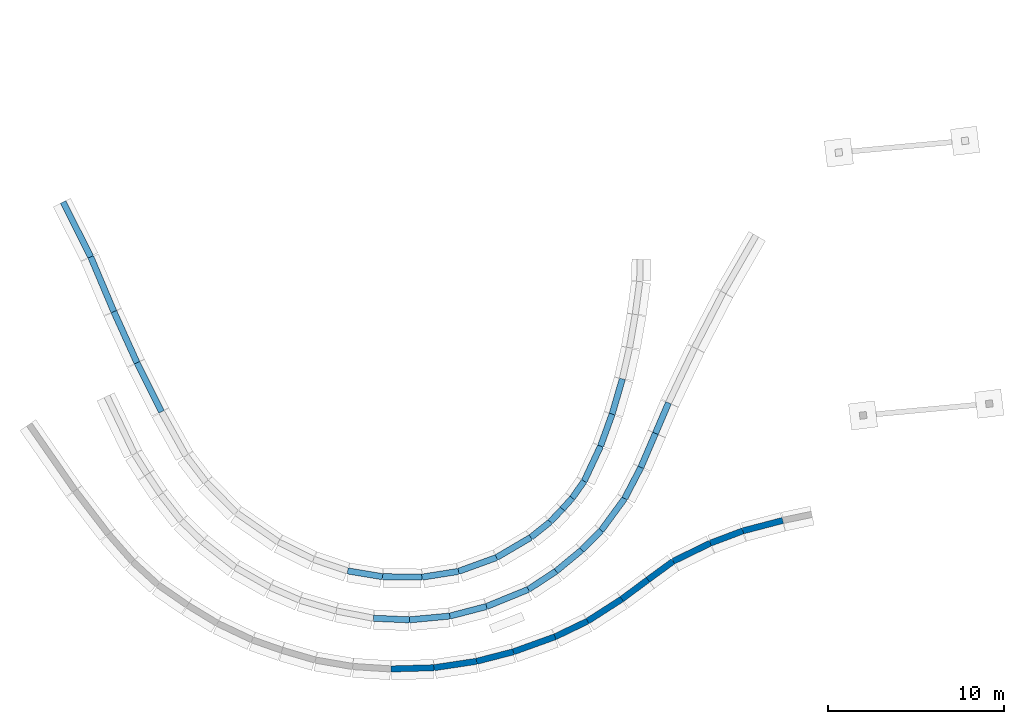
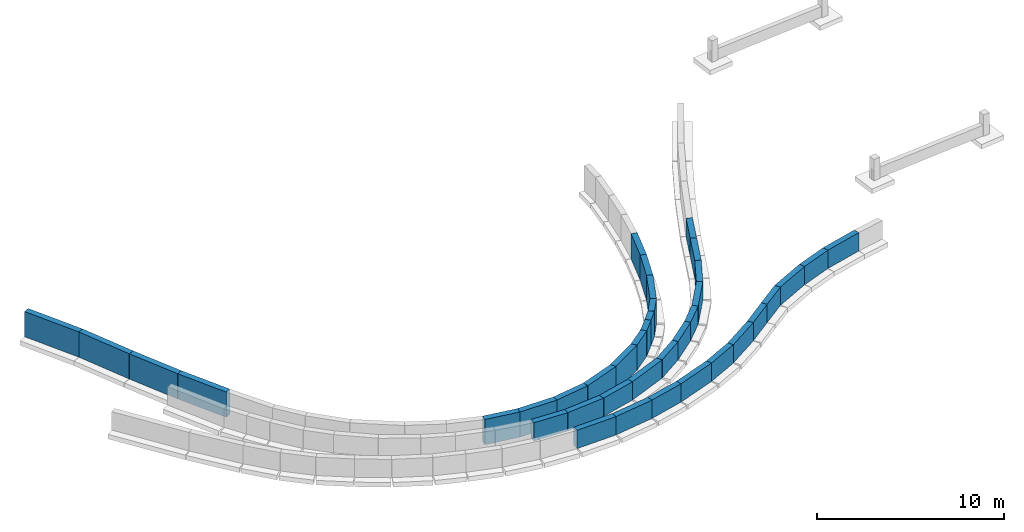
# One storey, part 5 of 6: 38 walls.
"""IFC2X3 building model written with IfcOpenShell, lengths in millimetres."""

from ifc_helpers import new_model, entity, si_unit, converted_unit, direction, origin, origin_with_axes, place, context, project, spatial, faceted_brep, element, save


model = new_model("IFC2X3")

# Units and contexts
model_context = context("Model", 3, precision=1e-05, world=origin(), true_north=direction((0.0, 1.0, 0.0)))
ifc_project = project(units=[si_unit("LENGTHUNIT", "METRE", prefix="MILLI"), si_unit("AREAUNIT", "SQUARE_METRE"), si_unit("VOLUMEUNIT", "CUBIC_METRE"), converted_unit("PLANEANGLEUNIT", "DEGREE", entity("IfcPlaneAngleMeasure", 0.01745), si_unit("PLANEANGLEUNIT", "RADIAN"), dimensions=[0, 0, 0, 0, 0, 0, 0]), si_unit("SOLIDANGLEUNIT", "STERADIAN"), si_unit("MASSUNIT", "GRAM"), si_unit("TIMEUNIT", "SECOND"), si_unit("THERMODYNAMICTEMPERATUREUNIT", "DEGREE_CELSIUS"), si_unit("LUMINOUSINTENSITYUNIT", "LUMEN")], contexts=[model_context])

# Site, building, storey
site_placement = place(None, origin_with_axes())
site = spatial("IfcSite", under=ifc_project, at=site_placement, Name="Default Site", CompositionType="ELEMENT")
building_placement = place(site_placement, origin_with_axes())
building = spatial("IfcBuilding", under=site, at=building_placement, Name="Default Building", CompositionType="ELEMENT")
storey_placement = place(building_placement, origin_with_axes())
storey = spatial("IfcBuildingStorey", under=building, at=storey_placement, Name="Fundação", CompositionType="ELEMENT", Elevation=0.0)

# Walls
wall_1_placement = place(storey_placement, origin_with_axes())
element("IfcWallStandardCase", 1, at=wall_1_placement, inside=storey, Name="IfcWallStandardCase - IfcWallStandardCase - C51 (35)", context=model_context, shape_type="Brep", body=[
    faceted_brep([(18862.11580742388, -2062.058731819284, -900.0000119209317), (19603.11581898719, -326.0587303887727, -900.0000119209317), (19603.11581898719, -326.0587303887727, -2100.000059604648), (18862.11580742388, -2062.058731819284, -2100.000059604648), (19925.01766193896, -463.4603708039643, -900.0000119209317), (19925.01766193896, -463.4603708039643, -2100.000059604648), (19184.01765037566, -2199.460372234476, -900.0000119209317), (19184.01765037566, -2199.460372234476, -2100.000059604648)], [[[0, 1, 2]], [[0, 2, 3]], [[1, 4, 5]], [[1, 5, 2]], [[4, 6, 7]], [[4, 7, 5]], [[6, 0, 3]], [[6, 3, 7]], [[2, 5, 7]], [[2, 7, 3]], [[0, 6, 4]], [[0, 4, 1]]]),
])
wall_2_placement = place(storey_placement, origin_with_axes())
element("IfcWallStandardCase", 2, at=wall_2_placement, inside=storey, Name="IfcWallStandardCase - IfcWallStandardCase - C52 (35)", context=model_context, shape_type="Brep", body=[
    faceted_brep([(18031.30454209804, -3995.618109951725, -900.0000119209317), (18862.30451253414, -2061.618154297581, -900.0000119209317), (18862.30451253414, -2061.618154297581, -2100.000059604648), (18031.30454209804, -3995.618109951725, -2100.000059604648), (19183.87610105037, -2199.790840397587, -900.0000119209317), (19183.87610105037, -2199.790840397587, -2100.000059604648), (18352.87613061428, -4133.790796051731, -900.0000119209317), (18352.87613061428, -4133.790796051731, -2100.000059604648)], [[[0, 1, 2]], [[0, 2, 3]], [[1, 4, 5]], [[1, 5, 2]], [[4, 6, 7]], [[4, 7, 5]], [[6, 0, 3]], [[6, 3, 7]], [[2, 5, 7]], [[2, 7, 3]], [[0, 6, 4]], [[0, 4, 1]]]),
])
wall_3_placement = place(storey_placement, origin_with_axes())
element("IfcWallStandardCase", 3, at=wall_3_placement, inside=storey, Name="IfcWallStandardCase - IfcWallStandardCase - C53 (35)", context=model_context, shape_type="Brep", body=[
    faceted_brep([(17115.66067051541, -5753.21824443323, -900.0000119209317), (18037.66066145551, -3982.21827638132, -900.0000119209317), (18037.66066145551, -3982.21827638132, -2100.000059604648), (17115.66067051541, -5753.21824443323, -2100.000059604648), (18348.10900997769, -4143.840741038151, -900.0000119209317), (18348.10900997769, -4143.840741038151, -2100.000059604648), (17426.1090190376, -5914.84070909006, -900.0000119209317), (17426.1090190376, -5914.84070909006, -2100.000059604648)], [[[0, 1, 2]], [[0, 2, 3]], [[1, 4, 5]], [[1, 5, 2]], [[4, 6, 7]], [[4, 7, 5]], [[6, 0, 3]], [[6, 3, 7]], [[2, 5, 7]], [[2, 7, 3]], [[0, 6, 4]], [[0, 4, 1]]]),
])
wall_4_placement = place(storey_placement, origin_with_axes())
element("IfcWallStandardCase", 4, at=wall_4_placement, inside=storey, Name="IfcWallStandardCase - IfcWallStandardCase - C54 (35)", context=model_context, shape_type="Brep", body=[
    faceted_brep([(15793.73382156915, -7553.362531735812, -900.0000119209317), (17131.73382109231, -5727.362496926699, -900.0000119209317), (17131.73382109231, -5727.362496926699, -2100.000059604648), (15793.73382156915, -7553.362531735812, -2100.000059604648), (17414.05414169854, -5934.232516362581, -900.0000119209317), (17414.05414169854, -5934.232516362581, -2100.000059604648), (16076.05414217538, -7760.232551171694, -900.0000119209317), (16076.05414217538, -7760.232551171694, -2100.000059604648)], [[[0, 1, 2]], [[0, 2, 3]], [[1, 4, 5]], [[1, 5, 2]], [[4, 6, 7]], [[4, 7, 5]], [[6, 0, 3]], [[6, 3, 7]], [[2, 5, 7]], [[2, 7, 3]], [[0, 6, 4]], [[0, 4, 1]]]),
])
wall_5_placement = place(storey_placement, origin_with_axes())
element("IfcWallStandardCase", 5, at=wall_5_placement, inside=storey, Name="IfcWallStandardCase - IfcWallStandardCase - C56 (35)", context=model_context, shape_type="Brep", body=[
    faceted_brep([(13261.58283014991, -9830.464795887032, -900.0000119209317), (14725.58281679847, -8619.464770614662, -900.0000119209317), (14725.58281679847, -8619.464770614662, -2100.000059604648), (13261.58283014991, -9830.464795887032, -2100.000059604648), (14948.66738577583, -8889.155820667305, -900.0000119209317), (14948.66738577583, -8889.155820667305, -2100.000059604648), (13484.66739912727, -10100.15584593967, -900.0000119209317), (13484.66739912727, -10100.15584593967, -2100.000059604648)], [[[0, 1, 2]], [[0, 2, 3]], [[1, 4, 5]], [[1, 5, 2]], [[4, 6, 7]], [[4, 7, 5]], [[6, 0, 3]], [[6, 3, 7]], [[2, 5, 7]], [[2, 7, 3]], [[0, 6, 4]], [[0, 4, 1]]]),
])
wall_6_placement = place(storey_placement, origin_with_axes())
element("IfcWallStandardCase", 6, at=wall_6_placement, inside=storey, Name="IfcWallStandardCase - IfcWallStandardCase - C57 (35)", context=model_context, shape_type="Brep", body=[
    faceted_brep([(11706.42371088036, -10848.30190706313, -900.0000119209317), (13279.423665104, -9817.301918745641, -900.0000119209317), (13279.423665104, -9817.301918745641, -2100.000059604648), (11706.42371088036, -10848.30190706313, -2100.000059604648), (13471.28672510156, -10110.02798843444, -900.0000119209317), (13471.28672510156, -10110.02798843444, -2100.000059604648), (11898.28677087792, -11141.02797675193, -900.0000119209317), (11898.28677087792, -11141.02797675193, -2100.000059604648)], [[[0, 1, 2]], [[0, 2, 3]], [[1, 4, 5]], [[1, 5, 2]], [[4, 6, 7]], [[4, 7, 5]], [[6, 0, 3]], [[6, 3, 7]], [[2, 5, 7]], [[2, 7, 3]], [[0, 6, 4]], [[0, 4, 1]]]),
])
wall_7_placement = place(storey_placement, origin_with_axes())
element("IfcWallStandardCase", 7, at=wall_7_placement, inside=storey, Name="IfcWallStandardCase - IfcWallStandardCase - C58 (35)", context=model_context, shape_type="Brep", body=[
    faceted_brep([(9354.33924728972, -11806.46209662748, -900.0000119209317), (11740.33916527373, -10830.46211546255, -900.0000119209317), (11740.33916527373, -10830.46211546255, -2100.000059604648), (9354.33924728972, -11806.46209662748, -2100.000059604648), (11872.85006577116, -11154.40784638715, -900.0000119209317), (11872.85006577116, -11154.40784638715, -2100.000059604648), (9486.850147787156, -12130.40782755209, -900.0000119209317), (9486.850147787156, -12130.40782755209, -2100.000059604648)], [[[0, 1, 2]], [[0, 2, 3]], [[1, 4, 5]], [[1, 5, 2]], [[4, 6, 7]], [[4, 7, 5]], [[6, 0, 3]], [[6, 3, 7]], [[2, 5, 7]], [[2, 7, 3]], [[0, 6, 4]], [[0, 4, 1]]]),
])
wall_8_placement = place(storey_placement, origin_with_axes())
element("IfcWallStandardCase", 8, at=wall_8_placement, inside=storey, Name="IfcWallStandardCase - IfcWallStandardCase - C60 (35)", context=model_context, shape_type="Brep", body=[
    faceted_brep([(5019.386290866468, -12551.44761238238, -900.0000119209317), (7333.386301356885, -12334.44760475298, -900.0000119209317), (7333.386301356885, -12334.44760475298, -2100.000059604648), (5019.386290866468, -12551.44761238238, -2100.000059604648), (7366.064786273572, -12682.9187098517, -900.0000119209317), (7366.064786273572, -12682.9187098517, -2100.000059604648), (5052.064775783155, -12899.9187174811, -900.0000119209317), (5052.064775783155, -12899.9187174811, -2100.000059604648)], [[[0, 1, 2]], [[0, 2, 3]], [[1, 4, 5]], [[1, 5, 2]], [[4, 6, 7]], [[4, 7, 5]], [[6, 0, 3]], [[6, 3, 7]], [[2, 5, 7]], [[2, 7, 3]], [[0, 6, 4]], [[0, 4, 1]]]),
])
wall_9_placement = place(storey_placement, origin_with_axes())
element("IfcWallStandardCase", 9, at=wall_9_placement, inside=storey, Name="IfcWallStandardCase - IfcWallStandardCase - C59 (35)", context=model_context, shape_type="Brep", body=[
    faceted_brep([(7301.582927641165, -12340.04851871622, -900.0000119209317), (9379.58293670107, -11798.04850810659, -900.0000119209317), (9379.58293670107, -11798.04850810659, -2100.000059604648), (7301.582927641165, -12340.04851871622, -2100.000059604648), (9467.917318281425, -12136.71803170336, -900.0000119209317), (9467.917318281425, -12136.71803170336, -2100.000059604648), (7389.917309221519, -12678.71804231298, -900.0000119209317), (7389.917309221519, -12678.71804231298, -2100.000059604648)], [[[0, 1, 2]], [[0, 2, 3]], [[1, 4, 5]], [[1, 5, 2]], [[4, 6, 7]], [[4, 7, 5]], [[6, 0, 3]], [[6, 3, 7]], [[2, 5, 7]], [[2, 7, 3]], [[0, 6, 4]], [[0, 4, 1]]]),
])
wall_10_placement = place(storey_placement, origin_with_axes())
element("IfcWallStandardCase", 10, at=wall_10_placement, inside=storey, Name="IfcWallStandardCase - IfcWallStandardCase - C61 (35)", context=model_context, shape_type="Brep", body=[
    faceted_brep([(3003.959414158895, -12459.77205563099, -900.0000119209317), (5046.959396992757, -12550.77206123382, -900.0000119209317), (5046.959396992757, -12550.77206123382, -2100.000059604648), (3003.959414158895, -12459.77205563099, -2100.000059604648), (5031.384941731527, -12900.42537975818, -900.0000119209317), (5031.384941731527, -12900.42537975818, -2100.000059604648), (2988.384958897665, -12809.42537415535, -900.0000119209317), (2988.384958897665, -12809.42537415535, -2100.000059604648)], [[[0, 1, 2]], [[0, 2, 3]], [[1, 4, 5]], [[1, 5, 2]], [[4, 6, 7]], [[4, 7, 5]], [[6, 0, 3]], [[6, 3, 7]], [[2, 5, 7]], [[2, 7, 3]], [[0, 6, 4]], [[0, 4, 1]]]),
])
wall_11_placement = place(storey_placement, origin_with_axes())
element("IfcWallStandardCase", 11, at=wall_11_placement, inside=storey, Name="IfcWallStandardCase - IfcWallStandardCase - C55 (35)", context=model_context, shape_type="Brep", body=[
    faceted_brep([(14711.63834119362, -8632.152600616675, -900.0000119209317), (15813.63836908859, -7530.152572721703, -900.0000119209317), (15813.63836908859, -7530.152572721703, -2100.000059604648), (14711.63834119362, -8632.152600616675, -2100.000059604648), (16061.1257650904, -7777.639968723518, -900.0000119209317), (16061.1257650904, -7777.639968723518, -2100.000059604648), (14959.12573719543, -8879.639996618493, -900.0000119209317), (14959.12573719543, -8879.639996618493, -2100.000059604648)], [[[0, 1, 2]], [[0, 2, 3]], [[1, 4, 5]], [[1, 5, 2]], [[4, 6, 7]], [[4, 7, 5]], [[6, 0, 3]], [[6, 3, 7]], [[2, 5, 7]], [[2, 7, 3]], [[0, 6, 4]], [[0, 4, 1]]]),
])
wall_12_placement = place(storey_placement, origin_with_axes())
element("IfcWallStandardCase", 12, at=wall_12_placement, inside=storey, Name="IfcWallStandardCase - IfcWallStandardCase - C12 (35)", context=model_context, shape_type="Brep", body=[
    faceted_brep([(3510.369693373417, -10099.58729582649, -1800.000032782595), (5761.369620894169, -10125.58728891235, -1800.000032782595), (5761.369620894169, -10125.58728891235, -3450.000008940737), (3510.369693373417, -10099.58729582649, -3450.000008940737), (5757.327233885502, -10475.56394773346, -1800.000032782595), (5757.327233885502, -10475.56394773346, -3450.000008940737), (3506.32730636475, -10449.56395464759, -1800.000032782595), (3506.32730636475, -10449.56395464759, -3450.000008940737)], [[[0, 1, 2]], [[0, 2, 3]], [[1, 4, 5]], [[1, 5, 2]], [[4, 6, 7]], [[4, 7, 5]], [[6, 0, 3]], [[6, 3, 7]], [[2, 5, 7]], [[2, 7, 3]], [[0, 6, 4]], [[0, 4, 1]]]),
])
wall_13_placement = place(storey_placement, origin_with_axes())
element("IfcWallStandardCase", 13, at=wall_13_placement, inside=storey, Name="IfcWallStandardCase - IfcWallStandardCase - C13 (35)", context=model_context, shape_type="Brep", body=[
    faceted_brep([(5727.72532962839, -10128.04380702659, -1800.000032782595), (7801.725330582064, -9799.04382108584, -1800.000032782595), (7801.725330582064, -9799.04382108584, -3450.000008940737), (5727.72532962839, -10128.04380702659, -3450.000008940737), (7856.560530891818, -10144.72156475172, -1800.000032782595), (7856.560530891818, -10144.72156475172, -3450.000008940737), (5782.560529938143, -10473.72155069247, -1800.000032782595), (5782.560529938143, -10473.72155069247, -3450.000008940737)], [[[0, 1, 2]], [[0, 2, 3]], [[1, 4, 5]], [[1, 5, 2]], [[4, 6, 7]], [[4, 7, 5]], [[6, 0, 3]], [[6, 3, 7]], [[2, 5, 7]], [[2, 7, 3]], [[0, 6, 4]], [[0, 4, 1]]]),
])
wall_14_placement = place(storey_placement, origin_with_axes())
element("IfcWallStandardCase", 14, at=wall_14_placement, inside=storey, Name="IfcWallStandardCase - IfcWallStandardCase - C20 (35)", context=model_context, shape_type="Brep", body=[
    faceted_brep([(16394.03285777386, -985.6661986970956, -1800.000032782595), (16976.03284513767, 1013.333873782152, -1800.000032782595), (16976.03284513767, 1013.333873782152, -3450.000008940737), (16394.03285777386, -985.6661986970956, -3450.000008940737), (17312.07986867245, 915.4952335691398, -1800.000032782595), (17312.07986867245, 915.4952335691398, -3450.000008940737), (16730.07988130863, -1083.504838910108, -1800.000032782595), (16730.07988130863, -1083.504838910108, -3450.000008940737)], [[[0, 1, 2]], [[0, 2, 3]], [[1, 4, 5]], [[1, 5, 2]], [[4, 6, 7]], [[4, 7, 5]], [[6, 0, 3]], [[6, 3, 7]], [[2, 5, 7]], [[2, 7, 3]], [[0, 6, 4]], [[0, 4, 1]]]),
])
wall_15_placement = place(storey_placement, origin_with_axes())
element("IfcWallStandardCase", 15, at=wall_15_placement, inside=storey, Name="IfcWallStandardCase - IfcWallStandardCase - C14 (35)", context=model_context, shape_type="Brep", body=[
    faceted_brep([(7764.670383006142, -9808.630065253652, -1800.000032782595), (9939.017783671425, -9017.425508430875, -1800.000032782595), (9939.017783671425, -9017.425508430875, -3450.000008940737), (7764.670383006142, -9808.630065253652, -3450.000008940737), (10058.69914200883, -9346.32729106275, -1800.000032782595), (10058.69914200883, -9346.32729106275, -3450.000008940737), (7884.351741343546, -10137.53184788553, -1800.000032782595), (7884.351741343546, -10137.53184788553, -3450.000008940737)], [[[0, 1, 2]], [[0, 2, 3]], [[1, 4, 5]], [[1, 5, 2]], [[4, 6, 7]], [[4, 7, 5]], [[6, 0, 3]], [[6, 3, 7]], [[2, 5, 7]], [[2, 7, 3]], [[0, 6, 4]], [[0, 4, 1]]]),
])
wall_16_placement = place(storey_placement, origin_with_axes())
element("IfcWallStandardCase", 16, at=wall_16_placement, inside=storey, Name="IfcWallStandardCase - IfcWallStandardCase - C19 (35)", context=model_context, shape_type="Brep", body=[
    faceted_brep([(15739.96269309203, -2794.60700293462, -1800.000032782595), (16397.9627003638, -973.6069633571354, -1800.000032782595), (16397.9627003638, -973.6069633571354, -3450.000008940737), (15739.96269309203, -2794.60700293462, -3450.000008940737), (16727.1324952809, -1092.549164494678, -1800.000032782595), (16727.1324952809, -1092.549164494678, -3450.000008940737), (16069.13248800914, -2913.549204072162, -1800.000032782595), (16069.13248800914, -2913.549204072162, -3450.000008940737)], [[[0, 1, 2]], [[0, 2, 3]], [[1, 4, 5]], [[1, 5, 2]], [[4, 6, 7]], [[4, 7, 5]], [[6, 0, 3]], [[6, 3, 7]], [[2, 5, 7]], [[2, 7, 3]], [[0, 6, 4]], [[0, 4, 1]]]),
])
wall_17_placement = place(storey_placement, origin_with_axes())
element("IfcWallStandardCase", 17, at=wall_17_placement, inside=storey, Name="IfcWallStandardCase - IfcWallStandardCase - C4 (35)", context=model_context, shape_type="Brep", body=[
    faceted_brep([(-10277.05483638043, 1956.868746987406, -1800.000032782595), (-8886.054863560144, -825.1311986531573, -1800.000032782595), (-8886.054863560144, -825.1311986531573, -3450.000008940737), (-10277.05483638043, 1956.868746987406, -3450.000008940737), (-9199.104358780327, -981.6559760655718, -1800.000032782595), (-9199.104358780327, -981.6559760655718, -3450.000008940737), (-10590.10433160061, 1800.343969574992, -1800.000032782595), (-10590.10433160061, 1800.343969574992, -3450.000008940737)], [[[0, 1, 2]], [[0, 2, 3]], [[1, 4, 5]], [[1, 5, 2]], [[4, 6, 7]], [[4, 7, 5]], [[6, 0, 3]], [[6, 3, 7]], [[2, 5, 7]], [[2, 7, 3]], [[0, 6, 4]], [[0, 4, 1]]]),
])
wall_18_placement = place(storey_placement, origin_with_axes())
element("IfcWallStandardCase", 18, at=wall_18_placement, inside=storey, Name="IfcWallStandardCase - IfcWallStandardCase - C18 (35)", context=model_context, shape_type="Brep", body=[
    faceted_brep([(14810.93204388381, -4776.763805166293, -1800.000032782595), (15746.93203339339, -2777.763792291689, -1800.000032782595), (15746.93203339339, -2777.763792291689, -3450.000008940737), (14810.93204388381, -4776.763805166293, -3450.000008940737), (16063.90548119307, -2926.181563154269, -1800.000032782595), (16063.90548119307, -2926.181563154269, -3450.000008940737), (15127.90549168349, -4925.181576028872, -1800.000032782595), (15127.90549168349, -4925.181576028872, -3450.000008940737)], [[[0, 1, 2]], [[0, 2, 3]], [[1, 4, 5]], [[1, 5, 2]], [[4, 6, 7]], [[4, 7, 5]], [[6, 0, 3]], [[6, 3, 7]], [[2, 5, 7]], [[2, 7, 3]], [[0, 6, 4]], [[0, 4, 1]]]),
])
wall_19_placement = place(storey_placement, origin_with_axes())
element("IfcWallStandardCase", 19, at=wall_19_placement, inside=storey, Name="IfcWallStandardCase - IfcWallStandardCase - C1 (35)", context=model_context, shape_type="Brep", body=[
    faceted_brep([(-14477.3309803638, 11092.41901726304, -1800.000032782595), (-12908.33097464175, 7978.418935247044, -1800.000032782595), (-12908.33097464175, 7978.418935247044, -3450.000008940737), (-14477.3309803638, 11092.41901726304, -3450.000008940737), (-13220.89725500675, 7820.931304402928, -1800.000032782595), (-13220.89725500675, 7820.931304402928, -3450.000008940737), (-14789.89726072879, 10934.93138641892, -1800.000032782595), (-14789.89726072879, 10934.93138641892, -3450.000008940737)], [[[0, 1, 2]], [[0, 2, 3]], [[1, 4, 5]], [[1, 5, 2]], [[4, 6, 7]], [[4, 7, 5]], [[6, 0, 3]], [[6, 3, 7]], [[2, 5, 7]], [[2, 7, 3]], [[0, 6, 4]], [[0, 4, 1]]]),
])
wall_20_placement = place(storey_placement, origin_with_axes())
element("IfcWallStandardCase", 20, at=wall_20_placement, inside=storey, Name="IfcWallStandardCase - IfcWallStandardCase - C2 (35)", context=model_context, shape_type="Brep", body=[
    faceted_brep([(-12902.71253598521, 7966.272968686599, -1800.000032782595), (-11587.71250856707, 4854.272980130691, -1800.000032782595), (-11587.71250856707, 4854.272980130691, -3450.000008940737), (-12902.71253598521, 7966.272968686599, -3450.000008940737), (-11910.11108172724, 4718.040842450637, -1800.000032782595), (-11910.11108172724, 4718.040842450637, -3450.000008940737), (-13225.11110914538, 7830.040831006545, -1800.000032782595), (-13225.11110914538, 7830.040831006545, -3450.000008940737)], [[[0, 1, 2]], [[0, 2, 3]], [[1, 4, 5]], [[1, 5, 2]], [[4, 6, 7]], [[4, 7, 5]], [[6, 0, 3]], [[6, 3, 7]], [[2, 5, 7]], [[2, 7, 3]], [[0, 6, 4]], [[0, 4, 1]]]),
])
wall_21_placement = place(storey_placement, origin_with_axes())
element("IfcWallStandardCase", 21, at=wall_21_placement, inside=storey, Name="IfcWallStandardCase - IfcWallStandardCase - C15 (35)", context=model_context, shape_type="Brep", body=[
    faceted_brep([(9905.966350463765, -9033.004113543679, -1800.000032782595), (11852.88781824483, -7887.198158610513, -1800.000032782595), (11852.88781824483, -7887.198158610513, -3450.000008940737), (9905.966350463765, -9033.004113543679, -3450.000008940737), (12030.4091662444, -8188.837357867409, -1800.000032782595), (12030.4091662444, -8188.837357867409, -3450.000008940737), (10083.48769846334, -9334.643312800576, -1800.000032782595), (10083.48769846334, -9334.643312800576, -3450.000008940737)], [[[0, 1, 2]], [[0, 2, 3]], [[1, 4, 5]], [[1, 5, 2]], [[4, 6, 7]], [[4, 7, 5]], [[6, 0, 3]], [[6, 3, 7]], [[2, 5, 7]], [[2, 7, 3]], [[0, 6, 4]], [[0, 4, 1]]]),
])
wall_22_placement = place(storey_placement, origin_with_axes())
element("IfcWallStandardCase", 22, at=wall_22_placement, inside=storey, Name="IfcWallStandardCase - IfcWallStandardCase - C11 (35)", context=model_context, shape_type="Brep", body=[
    faceted_brep([(1566.939499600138, -9773.295182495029, -1800.000032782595), (3540.939536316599, -10102.29516936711, -1800.000032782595), (3540.939536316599, -10102.29516936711, -3450.000008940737), (1566.939499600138, -9773.295182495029, -3450.000008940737), (3483.399894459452, -10447.53302982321, -1800.000032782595), (3483.399894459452, -10447.53302982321, -3450.000008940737), (1509.399857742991, -10118.53304295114, -1800.000032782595), (1509.399857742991, -10118.53304295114, -3450.000008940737)], [[[0, 1, 2]], [[0, 2, 3]], [[1, 4, 5]], [[1, 5, 2]], [[4, 6, 7]], [[4, 7, 5]], [[6, 0, 3]], [[6, 3, 7]], [[2, 5, 7]], [[2, 7, 3]], [[0, 6, 4]], [[0, 4, 1]]]),
])
wall_23_placement = place(storey_placement, origin_with_axes())
element("IfcWallStandardCase", 23, at=wall_23_placement, inside=storey, Name="IfcWallStandardCase - IfcWallStandardCase - C3 (35)", context=model_context, shape_type="Brep", body=[
    faceted_brep([(-11589.71926333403, 4858.860798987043, -1800.000032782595), (-10273.71927859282, 1949.860879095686, -1800.000032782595), (-10273.71927859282, 1949.860879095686, -3450.000008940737), (-11589.71926333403, 4858.860798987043, -3450.000008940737), (-10592.6060354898, 1805.599995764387, -1800.000032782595), (-10592.6060354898, 1805.599995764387, -3450.000008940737), (-11908.60602023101, 4714.599915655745, -1800.000032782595), (-11908.60602023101, 4714.599915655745, -3450.000008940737)], [[[0, 1, 2]], [[0, 2, 3]], [[1, 4, 5]], [[1, 5, 2]], [[4, 6, 7]], [[4, 7, 5]], [[6, 0, 3]], [[6, 3, 7]], [[2, 5, 7]], [[2, 7, 3]], [[0, 6, 4]], [[0, 4, 1]]]),
])
wall_24_placement = place(storey_placement, origin_with_axes())
element("IfcWallStandardCase", 24, at=wall_24_placement, inside=storey, Name="IfcWallStandardCase - IfcWallStandardCase - C120 (35)", context=model_context, shape_type="Brep", body=[
    faceted_brep([(13607.49655316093, -6306.674793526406, -1800.000032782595), (14164.49656436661, -5688.67479281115, -1800.000032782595), (14164.49656436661, -5688.67479281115, -3450.000008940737), (13607.49655316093, -6306.674793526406, -3450.000008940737), (14424.48210070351, -5922.998324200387, -1800.000032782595), (14424.48210070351, -5922.998324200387, -3450.000008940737), (13867.48208949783, -6540.998324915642, -1800.000032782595), (13867.48208949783, -6540.998324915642, -3450.000008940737)], [[[0, 1, 2]], [[0, 2, 3]], [[1, 4, 5]], [[1, 5, 2]], [[4, 6, 7]], [[4, 7, 5]], [[6, 0, 3]], [[6, 3, 7]], [[2, 5, 7]], [[2, 7, 3]], [[0, 6, 4]], [[0, 4, 1]]]),
])
wall_25_placement = place(storey_placement, origin_with_axes())
element("IfcWallStandardCase", 25, at=wall_25_placement, inside=storey, Name="IfcWallStandardCase - IfcWallStandardCase - C16 (35)", context=model_context, shape_type="Brep", body=[
    faceted_brep([(11829.50921321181, -7903.294000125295, -1800.000032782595), (12941.24035501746, -7015.30456850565, -1800.000032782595), (12941.24035501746, -7015.30456850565, -3450.000008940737), (11829.50921321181, -7903.294000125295, -3450.000008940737), (13159.67424178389, -7288.77601335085, -1800.000032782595), (13159.67424178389, -7288.77601335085, -3450.000008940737), (12047.94309997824, -8176.765444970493, -1800.000032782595), (12047.94309997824, -8176.765444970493, -3450.000008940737)], [[[0, 1, 2]], [[0, 2, 3]], [[1, 4, 5]], [[1, 5, 2]], [[4, 6, 7]], [[4, 7, 5]], [[6, 0, 3]], [[6, 3, 7]], [[2, 5, 7]], [[2, 7, 3]], [[0, 6, 4]], [[0, 4, 1]]]),
])
wall_26_placement = place(storey_placement, origin_with_axes())
element("IfcWallStandardCase", 26, at=wall_26_placement, inside=storey, Name="IfcWallStandardCase - IfcWallStandardCase - C17 (35)", context=model_context, shape_type="Brep", body=[
    faceted_brep([(12920.61846547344, -7034.290154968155, -1800.000032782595), (13610.61847799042, -6303.290148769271, -1800.000032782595), (13610.61847799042, -6303.290148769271, -3450.000008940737), (12920.61846547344, -7034.290154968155, -3450.000008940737), (13865.14066748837, -6543.536802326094, -1800.000032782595), (13865.14066748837, -6543.536802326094, -3450.000008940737), (13175.14065497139, -7274.536808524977, -1800.000032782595), (13175.14065497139, -7274.536808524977, -3450.000008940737)], [[[0, 1, 2]], [[0, 2, 3]], [[1, 4, 5]], [[1, 5, 2]], [[4, 6, 7]], [[4, 7, 5]], [[6, 0, 3]], [[6, 3, 7]], [[2, 5, 7]], [[2, 7, 3]], [[0, 6, 4]], [[0, 4, 1]]]),
])
wall_27_placement = place(storey_placement, origin_with_axes())
element("IfcWallStandardCase", 27, at=wall_27_placement, inside=storey, Name="IfcWallStandardCase - IfcWallStandardCase - C121 (35)", context=model_context, shape_type="Brep", body=[
    faceted_brep([(14149.71798439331, -5707.163914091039, -1800.000032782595), (14828.71798951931, -4746.163918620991, -1800.000032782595), (14828.71798951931, -4746.163918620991, -3450.000008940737), (14149.71798439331, -5707.163914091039, -3450.000008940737), (15114.56602592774, -4948.13148582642, -1800.000032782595), (15114.56602592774, -4948.13148582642, -3450.000008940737), (14435.56602080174, -5909.131481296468, -1800.000032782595), (14435.56602080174, -5909.131481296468, -3450.000008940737)], [[[0, 1, 2]], [[0, 2, 3]], [[1, 4, 5]], [[1, 5, 2]], [[4, 6, 7]], [[4, 7, 5]], [[6, 0, 3]], [[6, 3, 7]], [[2, 5, 7]], [[2, 7, 3]], [[0, 6, 4]], [[0, 4, 1]]]),
])
wall_28_placement = place(storey_placement, origin_with_axes())
element("IfcWallStandardCase", 28, at=wall_28_placement, inside=storey, Name="IfcWallStandardCase - IfcWallStandardCase - C102 (35)", context=model_context, shape_type="Brep", body=[
    faceted_brep([(17007.9986432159, -11404.87406486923, -1.192093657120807e-05), (18489.99863654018, -10306.87404508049, -1.192093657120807e-05), (18489.99863654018, -10306.87404508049, -1200.000059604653), (17007.9986432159, -11404.87406486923, -1200.000059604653), (18698.35549383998, -10588.09892172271, -1.192093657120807e-05), (18698.35549383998, -10588.09892172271, -1200.000059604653), (17216.3555005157, -11686.09894151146, -1.192093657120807e-05), (17216.3555005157, -11686.09894151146, -1200.000059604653)], [[[0, 1, 2]], [[0, 2, 3]], [[1, 4, 5]], [[1, 5, 2]], [[4, 6, 7]], [[4, 7, 5]], [[6, 0, 3]], [[6, 3, 7]], [[2, 5, 7]], [[2, 7, 3]], [[0, 6, 4]], [[0, 4, 1]]]),
])
wall_29_placement = place(storey_placement, origin_with_axes())
element("IfcWallStandardCase", 29, at=wall_29_placement, inside=storey, Name="IfcWallStandardCase - IfcWallStandardCase - C101 (35)", context=model_context, shape_type="Brep", body=[
    faceted_brep([(18490.98279628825, -10306.14955198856, -1.192093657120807e-05), (19920.98280344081, -9260.149548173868, -1.192093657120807e-05), (19920.98280344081, -9260.149548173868, -1200.000059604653), (18490.98279628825, -10306.14955198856, -1200.000059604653), (20127.61738452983, -9542.642305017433, -1.192093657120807e-05), (20127.61738452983, -9542.642305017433, -1200.000059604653), (18697.61737737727, -10588.64230883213, -1.192093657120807e-05), (18697.61737737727, -10588.64230883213, -1200.000059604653)], [[[0, 1, 2]], [[0, 2, 3]], [[1, 4, 5]], [[1, 5, 2]], [[4, 6, 7]], [[4, 7, 5]], [[6, 0, 3]], [[6, 3, 7]], [[2, 5, 7]], [[2, 7, 3]], [[0, 6, 4]], [[0, 4, 1]]]),
])
wall_30_placement = place(storey_placement, origin_with_axes())
element("IfcWallStandardCase", 30, at=wall_30_placement, inside=storey, Name="IfcWallStandardCase - IfcWallStandardCase - C98 (35)", context=model_context, shape_type="Brep", body=[
    faceted_brep([(23945.44673666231, -7502.084104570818, -1.192093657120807e-05), (26212.44681581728, -6909.084094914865, -1.192093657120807e-05), (26212.44681581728, -6909.084094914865, -1200.000059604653), (23945.44673666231, -7502.084104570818, -1200.000059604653), (26301.0194371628, -7247.691391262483, -1.192093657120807e-05), (26301.0194371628, -7247.691391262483, -1200.000059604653), (24034.01935800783, -7840.691400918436, -1.192093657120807e-05), (24034.01935800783, -7840.691400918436, -1200.000059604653)], [[[0, 1, 2]], [[0, 2, 3]], [[1, 4, 5]], [[1, 5, 2]], [[4, 6, 7]], [[4, 7, 5]], [[6, 0, 3]], [[6, 3, 7]], [[2, 5, 7]], [[2, 7, 3]], [[0, 6, 4]], [[0, 4, 1]]]),
])
wall_31_placement = place(storey_placement, origin_with_axes())
element("IfcWallStandardCase", 31, at=wall_31_placement, inside=storey, Name="IfcWallStandardCase - IfcWallStandardCase - C105 (35)", context=model_context, shape_type="Brep", body=[
    faceted_brep([(10888.28489935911, -14376.4076222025, -1.192093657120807e-05), (13259.28495085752, -13522.40764985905, -1.192093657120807e-05), (13259.28495085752, -13522.40764985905, -1200.000059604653), (10888.28489935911, -14376.4076222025, -1200.000059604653), (13377.89080298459, -13851.69875512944, -1.192093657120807e-05), (13377.89080298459, -13851.69875512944, -1200.000059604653), (11006.89075148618, -14705.69872747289, -1.192093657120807e-05), (11006.89075148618, -14705.69872747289, -1200.000059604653)], [[[0, 1, 2]], [[0, 2, 3]], [[1, 4, 5]], [[1, 5, 2]], [[4, 6, 7]], [[4, 7, 5]], [[6, 0, 3]], [[6, 3, 7]], [[2, 5, 7]], [[2, 7, 3]], [[0, 6, 4]], [[0, 4, 1]]]),
])
wall_32_placement = place(storey_placement, origin_with_axes())
element("IfcWallStandardCase", 32, at=wall_32_placement, inside=storey, Name="IfcWallStandardCase - IfcWallStandardCase - C103 (35)", context=model_context, shape_type="Brep", body=[
    faceted_brep([(15066.83856103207, -12653.38308556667, -1.192093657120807e-05), (17018.83852336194, -11397.38307340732, -1.192093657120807e-05), (17018.83852336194, -11397.38307340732, -1200.000059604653), (15066.83856103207, -12653.38308556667, -1200.000059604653), (17208.22554681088, -11691.71715720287, -1.192093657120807e-05), (17208.22554681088, -11691.71715720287, -1200.000059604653), (15256.22558448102, -12947.71716936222, -1.192093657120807e-05), (15256.22558448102, -12947.71716936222, -1200.000059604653)], [[[0, 1, 2]], [[0, 2, 3]], [[1, 4, 5]], [[1, 5, 2]], [[4, 6, 7]], [[4, 7, 5]], [[6, 0, 3]], [[6, 3, 7]], [[2, 5, 7]], [[2, 7, 3]], [[0, 6, 4]], [[0, 4, 1]]]),
])
wall_33_placement = place(storey_placement, origin_with_axes())
element("IfcWallStandardCase", 33, at=wall_33_placement, inside=storey, Name="IfcWallStandardCase - IfcWallStandardCase - C104 (35)", context=model_context, shape_type="Brep", body=[
    faceted_brep([(13240.35814679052, -13530.34401097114, -1.192093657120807e-05), (15088.35813677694, -12641.34401240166, -1.192093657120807e-05), (15088.35813677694, -12641.34401240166, -1200.000059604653), (13240.35814679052, -13530.34401097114, -1200.000059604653), (15240.08587277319, -12956.74646057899, -1.192093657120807e-05), (15240.08587277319, -12956.74646057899, -1200.000059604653), (13392.08588278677, -13845.74645914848, -1.192093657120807e-05), (13392.08588278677, -13845.74645914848, -1200.000059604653)], [[[0, 1, 2]], [[0, 2, 3]], [[1, 4, 5]], [[1, 5, 2]], [[4, 6, 7]], [[4, 7, 5]], [[6, 0, 3]], [[6, 3, 7]], [[2, 5, 7]], [[2, 7, 3]], [[0, 6, 4]], [[0, 4, 1]]]),
])
wall_34_placement = place(storey_placement, origin_with_axes())
element("IfcWallStandardCase", 34, at=wall_34_placement, inside=storey, Name="IfcWallStandardCase - IfcWallStandardCase - C99 (35)", context=model_context, shape_type="Brep", body=[
    faceted_brep([(22077.48001123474, -8205.441655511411, -1.192093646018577e-05), (23925.48000122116, -7508.441673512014, -1.192093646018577e-05), (23925.48000122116, -7508.441673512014, -1200.000059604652), (22077.48001123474, -8205.441655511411, -1200.000059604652), (24048.99447465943, -7835.923226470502, -1.192093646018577e-05), (24048.99447465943, -7835.923226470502, -1200.000059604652), (22200.99448467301, -8532.9232084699, -1.192093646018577e-05), (22200.99448467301, -8532.9232084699, -1200.000059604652)], [[[0, 1, 2]], [[0, 2, 3]], [[1, 4, 5]], [[1, 5, 2]], [[4, 6, 7]], [[4, 7, 5]], [[6, 0, 3]], [[6, 3, 7]], [[2, 5, 7]], [[2, 7, 3]], [[0, 6, 4]], [[0, 4, 1]]]),
])
wall_35_placement = place(storey_placement, origin_with_axes())
element("IfcWallStandardCase", 35, at=wall_35_placement, inside=storey, Name="IfcWallStandardCase - IfcWallStandardCase - C106 (35)", context=model_context, shape_type="Brep", body=[
    faceted_brep([(8814.072863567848, -14910.92140757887, -1.192093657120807e-05), (10906.07287119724, -14370.92140847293, -1.192093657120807e-05), (10906.07287119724, -14370.92140847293, -1200.000059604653), (8814.072863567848, -14910.92140757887, -1200.000059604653), (10993.5498399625, -14709.8134138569, -1.192093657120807e-05), (10993.5498399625, -14709.8134138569, -1200.000059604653), (8901.549832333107, -15249.81341296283, -1.192093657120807e-05), (8901.549832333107, -15249.81341296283, -1200.000059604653)], [[[0, 1, 2]], [[0, 2, 3]], [[1, 4, 5]], [[1, 5, 2]], [[4, 6, 7]], [[4, 7, 5]], [[6, 0, 3]], [[6, 3, 7]], [[2, 5, 7]], [[2, 7, 3]], [[0, 6, 4]], [[0, 4, 1]]]),
])
wall_36_placement = place(storey_placement, origin_with_axes())
element("IfcWallStandardCase", 36, at=wall_36_placement, inside=storey, Name="IfcWallStandardCase - IfcWallStandardCase - C100 (35)", context=model_context, shape_type="Brep", body=[
    faceted_brep([(19951.35983481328, -9241.8276538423, -1.192093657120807e-05), (22060.359861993, -8212.827669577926, -1.192093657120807e-05), (22060.359861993, -8212.827669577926, -1200.000059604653), (19951.35983481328, -9241.8276538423, -1200.000059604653), (22213.83461012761, -8527.383731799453, -1.192093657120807e-05), (22213.83461012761, -8527.383731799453, -1200.000059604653), (20104.83458294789, -9556.383716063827, -1.192093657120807e-05), (20104.83458294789, -9556.383716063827, -1200.000059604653)], [[[0, 1, 2]], [[0, 2, 3]], [[1, 4, 5]], [[1, 5, 2]], [[4, 6, 7]], [[4, 7, 5]], [[6, 0, 3]], [[6, 3, 7]], [[2, 5, 7]], [[2, 7, 3]], [[0, 6, 4]], [[0, 4, 1]]]),
])
wall_37_placement = place(storey_placement, origin_with_axes())
element("IfcWallStandardCase", 37, at=wall_37_placement, inside=storey, Name="IfcWallStandardCase - IfcWallStandardCase - C107 (35)", context=model_context, shape_type="Brep", body=[
    faceted_brep([(6411.188110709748, -15272.81734842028, -1.192093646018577e-05), (8834.18808877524, -14906.81735268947, -1.192093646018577e-05), (8834.18808877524, -14906.81735268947, -1200.000059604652), (6411.188110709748, -15272.81734842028, -1200.000059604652), (8886.46338880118, -15252.89145792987, -1.192093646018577e-05), (8886.46338880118, -15252.89145792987, -1200.000059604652), (6463.463410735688, -15618.89145366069, -1.192093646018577e-05), (6463.463410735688, -15618.89145366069, -1200.000059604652)], [[[0, 1, 2]], [[0, 2, 3]], [[1, 4, 5]], [[1, 5, 2]], [[4, 6, 7]], [[4, 7, 5]], [[6, 0, 3]], [[6, 3, 7]], [[2, 5, 7]], [[2, 7, 3]], [[0, 6, 4]], [[0, 4, 1]]]),
])
wall_38_placement = place(storey_placement, origin_with_axes())
element("IfcWallStandardCase", 38, at=wall_38_placement, inside=storey, Name="IfcWallStandardCase - IfcWallStandardCase - C108 (35)", context=model_context, shape_type="Brep", body=[
    faceted_brep([(3994.32675822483, -15340.65616800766, -1.192093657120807e-05), (6435.326742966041, -15270.65616025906, -1.192093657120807e-05), (6435.326742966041, -15270.65616025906, -1200.000059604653), (3994.32675822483, -15340.65616800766, -1200.000059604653), (6445.359396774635, -15620.51234319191, -1.192093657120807e-05), (6445.359396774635, -15620.51234319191, -1200.000059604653), (4004.359412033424, -15690.51235094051, -1.192093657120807e-05), (4004.359412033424, -15690.51235094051, -1200.000059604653)], [[[0, 1, 2]], [[0, 2, 3]], [[1, 4, 5]], [[1, 5, 2]], [[4, 6, 7]], [[4, 7, 5]], [[6, 0, 3]], [[6, 3, 7]], [[2, 5, 7]], [[2, 7, 3]], [[0, 6, 4]], [[0, 4, 1]]]),
])

save(model, "model.ifc")
